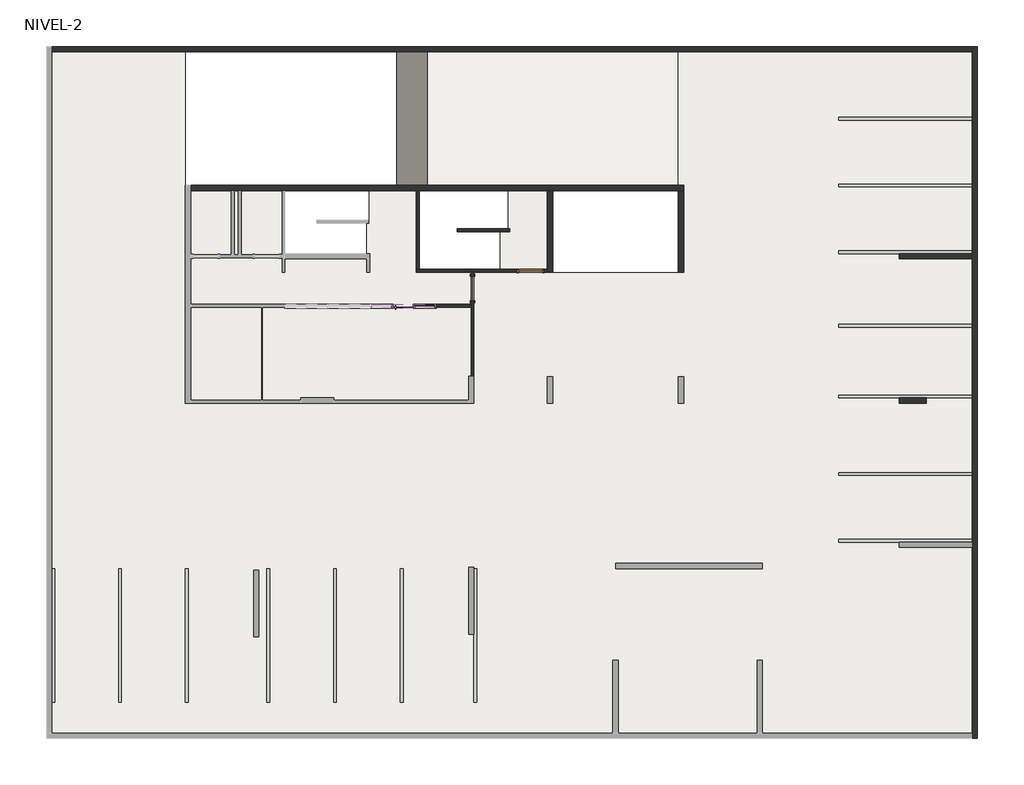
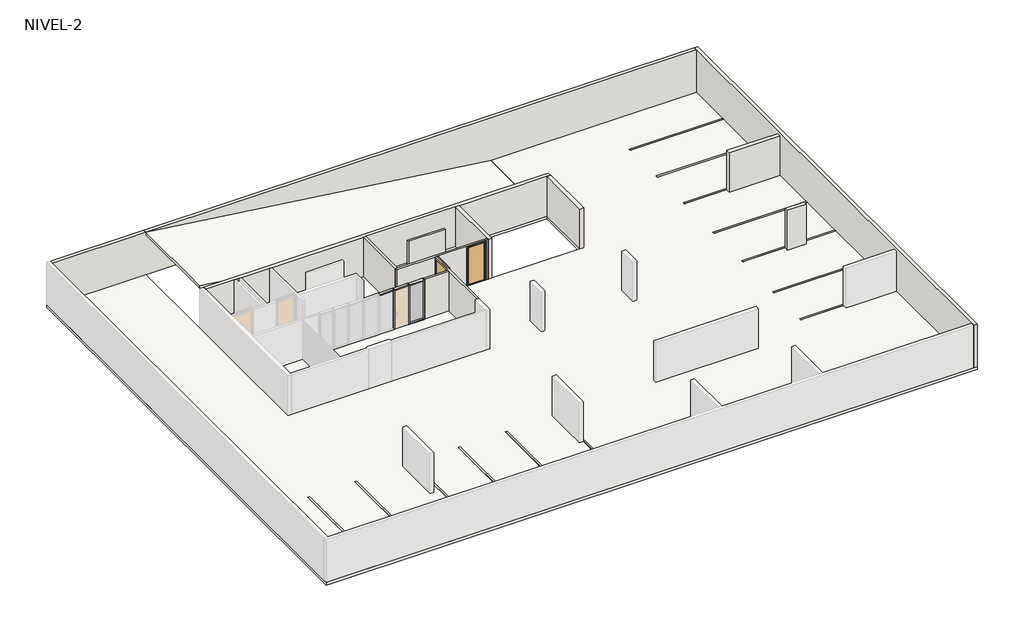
# One storey, part 2 of 2: 14 proxies, 12 walls, 8 members, 2 doors, 2 slabs, 1 plate.
"""IFC4 building model written with IfcOpenShell, lengths in millimetres."""

from ifc_helpers import new_model, si_unit, frame, origin, place, context, project, spatial, polyline, outline, extrude, faceted_brep, transform, mapped, element, save
from components import m_plaza_de_aparcamiento_500x_240_cm_90_grados_ee1d180e, m_plaza_de_aparcamiento_500x_240_cm_90_grados_d35e9f12, door_90f4172a, m_single_flush_910x_224_031eae0d, rectangular_mullion_50_x_150mm_77bbb7d4, rectangular_mullion_50_x_150mm_79b53f25, rectangular_mullion_50_x_150mm_de483d99, system_panel_glazed_bc2b5b42

model = new_model("IFC4")

# Units and contexts
model_context = context("Model", 3, world=origin())
ifc_project = project(units=[si_unit("LENGTHUNIT", "METRE", prefix="MILLI")], contexts=[model_context])

# Site, building, storey
site = spatial("IfcSite", under=ifc_project)
building = spatial("IfcBuilding", under=site)
storey = spatial("IfcBuildingStorey", under=building, Name="NIVEL-2", Elevation=-6900.0)

# Proxies
placement = place(None, origin())
m_plaza_de_aparcamiento_500x_240_cm_90_grados_shape = m_plaza_de_aparcamiento_500x_240_cm_90_grados_ee1d180e(model_context)
element("IfcBuildingElementProxy", 1, Name="M_Plaza de aparcamiento : 500x 240 cm - 90 grados", ObjectType="M_Plaza de aparcamiento : 500x 240 cm - 90 grados", at=placement, inside=storey, context=model_context, shape_type="MappedRepresentation", body=[
    mapped(m_plaza_de_aparcamiento_500x_240_cm_90_grados_shape, transform((-12432.7934748, -1166.0860759, -6900.0), x_axis=(1.0, 0.0, 0.0), y_axis=(0.0, 1.0, 0.0), z_axis=(0.0, 0.0, 1.0))),
])
element("IfcBuildingElementProxy", 2, Name="M_Plaza de aparcamiento : 500x 240 cm - 90 grados", ObjectType="M_Plaza de aparcamiento : 500x 240 cm - 90 grados", at=placement, inside=storey, context=model_context, shape_type="MappedRepresentation", body=[
    mapped(m_plaza_de_aparcamiento_500x_240_cm_90_grados_shape, transform((-15183.5934748, -1166.0860759, -6900.0), x_axis=(1.0, 0.0, 0.0), y_axis=(0.0, 1.0, 0.0), z_axis=(0.0, 0.0, 1.0))),
])
element("IfcBuildingElementProxy", 3, Name="M_Plaza de aparcamiento : 500x 240 cm - 90 grados", ObjectType="M_Plaza de aparcamiento : 500x 240 cm - 90 grados", at=placement, inside=storey, context=model_context, shape_type="MappedRepresentation", body=[
    mapped(m_plaza_de_aparcamiento_500x_240_cm_90_grados_shape, transform((-17683.5934748, -1166.0860759, -6900.0), x_axis=(1.0, 0.0, 0.0), y_axis=(0.0, 1.0, 0.0), z_axis=(0.0, 0.0, 1.0))),
])
element("IfcBuildingElementProxy", 4, Name="M_Plaza de aparcamiento : 500x 240 cm - 90 grados", ObjectType="M_Plaza de aparcamiento : 500x 240 cm - 90 grados", at=placement, inside=storey, context=model_context, shape_type="MappedRepresentation", body=[
    mapped(m_plaza_de_aparcamiento_500x_240_cm_90_grados_shape, transform((-20183.5934748, -1166.0860759, -6900.0), x_axis=(1.0, 0.0, 0.0), y_axis=(0.0, 1.0, 0.0), z_axis=(0.0, 0.0, 1.0))),
])
element("IfcBuildingElementProxy", 5, Name="M_Plaza de aparcamiento : 500x 240 cm - 90 grados", ObjectType="M_Plaza de aparcamiento : 500x 240 cm - 90 grados", at=placement, inside=storey, context=model_context, shape_type="MappedRepresentation", body=[
    mapped(m_plaza_de_aparcamiento_500x_240_cm_90_grados_shape, transform((-23233.5934748, -1166.0860759, -6900.0), x_axis=(1.0, 0.0, 0.0), y_axis=(0.0, 1.0, 0.0), z_axis=(0.0, 0.0, 1.0))),
])
element("IfcBuildingElementProxy", 6, Name="M_Plaza de aparcamiento : 500x 240 cm - 90 grados", ObjectType="M_Plaza de aparcamiento : 500x 240 cm - 90 grados", at=placement, inside=storey, context=model_context, shape_type="MappedRepresentation", body=[
    mapped(m_plaza_de_aparcamiento_500x_240_cm_90_grados_shape, transform((-25733.5934748, -1166.0860759, -6900.0), x_axis=(1.0, 0.0, 0.0), y_axis=(0.0, 1.0, 0.0), z_axis=(0.0, 0.0, 1.0))),
])
element("IfcBuildingElementProxy", 7, Name="M_Plaza de aparcamiento : 500x 240 cm - 90 grados", ObjectType="M_Plaza de aparcamiento : 500x 240 cm - 90 grados", at=placement, inside=storey, context=model_context, shape_type="MappedRepresentation", body=[
    mapped(m_plaza_de_aparcamiento_500x_240_cm_90_grados_shape, transform((-28233.5934748, -1166.0860759, -6900.0), x_axis=(1.0, 0.0, 0.0), y_axis=(0.0, 1.0, 0.0), z_axis=(0.0, 0.0, 1.0))),
])
m_plaza_de_aparcamiento_500x_240_cm_90_grados_2_shape = m_plaza_de_aparcamiento_500x_240_cm_90_grados_d35e9f12(model_context)
element("IfcBuildingElementProxy", 8, Name="M_Plaza de aparcamiento : 500x 240 cm - 90 grados", ObjectType="M_Plaza de aparcamiento : 500x 240 cm - 90 grados", at=placement, inside=storey, context=model_context, shape_type="MappedRepresentation", body=[
    mapped(m_plaza_de_aparcamiento_500x_240_cm_90_grados_2_shape, transform((6166.4065252, 13184.7139241, -6900.0), x_axis=(0.0, 1.0, 0.0), y_axis=(-1.0, 0.0, 0.0), z_axis=(0.0, 0.0, 1.0))),
])
element("IfcBuildingElementProxy", 9, Name="M_Plaza de aparcamiento : 500x 240 cm - 90 grados", ObjectType="M_Plaza de aparcamiento : 500x 240 cm - 90 grados", at=placement, inside=storey, context=model_context, shape_type="MappedRepresentation", body=[
    mapped(m_plaza_de_aparcamiento_500x_240_cm_90_grados_2_shape, transform((6166.4065252, 15684.7139241, -6900.0), x_axis=(0.0, 1.0, 0.0), y_axis=(-1.0, 0.0, 0.0), z_axis=(0.0, 0.0, 1.0))),
])
element("IfcBuildingElementProxy", 10, Name="M_Plaza de aparcamiento : 500x 240 cm - 90 grados", ObjectType="M_Plaza de aparcamiento : 500x 240 cm - 90 grados", at=placement, inside=storey, context=model_context, shape_type="MappedRepresentation", body=[
    mapped(m_plaza_de_aparcamiento_500x_240_cm_90_grados_2_shape, transform((6166.4065252, 10684.7139241, -6900.0), x_axis=(0.0, 1.0, 0.0), y_axis=(-1.0, 0.0, 0.0), z_axis=(0.0, 0.0, 1.0))),
])
element("IfcBuildingElementProxy", 11, Name="M_Plaza de aparcamiento : 500x 240 cm - 90 grados", ObjectType="M_Plaza de aparcamiento : 500x 240 cm - 90 grados", at=placement, inside=storey, context=model_context, shape_type="MappedRepresentation", body=[
    mapped(m_plaza_de_aparcamiento_500x_240_cm_90_grados_2_shape, transform((6166.4065252, 7933.9139241, -6900.0), x_axis=(0.0, 1.0, 0.0), y_axis=(-1.0, 0.0, 0.0), z_axis=(0.0, 0.0, 1.0))),
])
element("IfcBuildingElementProxy", 12, Name="M_Plaza de aparcamiento : 500x 240 cm - 90 grados", ObjectType="M_Plaza de aparcamiento : 500x 240 cm - 90 grados", at=placement, inside=storey, context=model_context, shape_type="MappedRepresentation", body=[
    mapped(m_plaza_de_aparcamiento_500x_240_cm_90_grados_2_shape, transform((6166.4065252, 5284.7139241, -6900.0), x_axis=(0.0, 1.0, 0.0), y_axis=(-1.0, 0.0, 0.0), z_axis=(0.0, 0.0, 1.0))),
])
element("IfcBuildingElementProxy", 13, Name="M_Plaza de aparcamiento : 500x 240 cm - 90 grados", ObjectType="M_Plaza de aparcamiento : 500x 240 cm - 90 grados", at=placement, inside=storey, context=model_context, shape_type="MappedRepresentation", body=[
    mapped(m_plaza_de_aparcamiento_500x_240_cm_90_grados_2_shape, transform((6166.4065252, 2384.7139241, -6900.0), x_axis=(0.0, 1.0, 0.0), y_axis=(-1.0, 0.0, 0.0), z_axis=(0.0, 0.0, 1.0))),
])
element("IfcBuildingElementProxy", 14, Name="M_Plaza de aparcamiento : 500x 240 cm - 90 grados", ObjectType="M_Plaza de aparcamiento : 500x 240 cm - 90 grados", at=placement, inside=storey, context=model_context, shape_type="MappedRepresentation", body=[
    mapped(m_plaza_de_aparcamiento_500x_240_cm_90_grados_2_shape, transform((6166.4065252, -115.2860759, -6900.0), x_axis=(0.0, 1.0, 0.0), y_axis=(-1.0, 0.0, 0.0), z_axis=(0.0, 0.0, 1.0))),
])

# Doors
door_shape = door_90f4172a(model_context)
element("IfcDoor", 15, ObjectType="PUERTA SEGURIDAD SIMPLE : P600_A(90*220) RF120", at=placement, inside=storey, context=model_context, shape_type="MappedRepresentation", body=[
    mapped(door_shape, transform((-10358.5934748, 9988.9139241, -6900.0), x_axis=(1.0, 0.0, 0.0), y_axis=(0.0, 1.0, 0.0), z_axis=(0.0, 0.0, 1.0))),
])
m_single_flush_910x_224_shape = m_single_flush_910x_224_031eae0d(model_context)
element("IfcDoor", 16, ObjectType="M_Single-Flush : 910x 224", at=placement, inside=storey, context=model_context, shape_type="MappedRepresentation", body=[
    mapped(m_single_flush_910x_224_shape, transform((-12538.5934748, 9333.9139241, -6900.0), x_axis=(0.0, -1.0, 0.0), y_axis=(1.0, 0.0, 0.0), z_axis=(0.0, 0.0, 1.0))),
])

# Members
rectangular_mullion_50_x_150mm_shape = rectangular_mullion_50_x_150mm_77bbb7d4(model_context)
element("IfcMember", 17, ObjectType="Rectangular Mullion : 50 x 150mm", at=placement, inside=storey, context=model_context, shape_type="MappedRepresentation", body=[
    mapped(rectangular_mullion_50_x_150mm_shape, transform((-15558.5934745, 8658.9139241, -4670.0), x_axis=(0.0, 0.0, 1.0), y_axis=(0.0, -1.0, 0.0), z_axis=(1.0, 0.0, 0.0))),
])
element("IfcMember", 18, ObjectType="Rectangular Mullion : 50 x 150mm", at=placement, inside=storey, context=model_context, shape_type="MappedRepresentation", body=[
    mapped(rectangular_mullion_50_x_150mm_shape, transform((-14753.5934745, 8658.9139241, -4670.0), x_axis=(0.0, 0.0, 1.0), y_axis=(0.0, -1.0, 0.0), z_axis=(1.0, 0.0, 0.0))),
])
element("IfcMember", 19, ObjectType="Rectangular Mullion : 50 x 150mm", at=placement, inside=storey, context=model_context, shape_type="MappedRepresentation", body=[
    mapped(rectangular_mullion_50_x_150mm_shape, transform((-13948.5934745, 8658.9139241, -4670.0), x_axis=(0.0, 0.0, 1.0), y_axis=(0.0, -1.0, 0.0), z_axis=(1.0, 0.0, 0.0))),
])
element("IfcMember", 20, ObjectType="Rectangular Mullion : 50 x 150mm", at=placement, inside=storey, context=model_context, shape_type="MappedRepresentation", body=[
    mapped(rectangular_mullion_50_x_150mm_shape, transform((-14703.5934745, 8658.9139241, -6920.0), x_axis=(0.0, 0.0, -1.0), y_axis=(0.0, -1.0, 0.0), z_axis=(-1.0, 0.0, 0.0))),
])
rectangular_mullion_50_x_150mm_2_shape = rectangular_mullion_50_x_150mm_79b53f25(model_context)
element("IfcMember", 21, ObjectType="Rectangular Mullion : 50 x 150mm", at=placement, inside=storey, context=model_context, shape_type="MappedRepresentation", body=[
    mapped(rectangular_mullion_50_x_150mm_2_shape, transform((-15533.5934745, 8658.9139241, -6920.0), x_axis=(1.0, 0.0, 0.0), y_axis=(0.0, -1.0, 0.0), z_axis=(0.0, 0.0, -1.0))),
])
element("IfcMember", 22, ObjectType="Rectangular Mullion : 50 x 150mm", at=placement, inside=storey, context=model_context, shape_type="MappedRepresentation", body=[
    mapped(rectangular_mullion_50_x_150mm_2_shape, transform((-14728.5934745, 8658.9139241, -6920.0), x_axis=(1.0, 0.0, 0.0), y_axis=(0.0, -1.0, 0.0), z_axis=(0.0, 0.0, -1.0))),
])
element("IfcMember", 23, ObjectType="Rectangular Mullion : 50 x 150mm", at=placement, inside=storey, context=model_context, shape_type="MappedRepresentation", body=[
    mapped(rectangular_mullion_50_x_150mm_2_shape, transform((-13923.5934745, 8658.9139241, -6920.0), x_axis=(1.0, 0.0, 0.0), y_axis=(0.0, -1.0, 0.0), z_axis=(0.0, 0.0, -1.0))),
])
rectangular_mullion_50_x_150mm_3_shape = rectangular_mullion_50_x_150mm_de483d99(model_context)
element("IfcMember", 24, ObjectType="Rectangular Mullion : 50 x 150mm", at=placement, inside=storey, context=model_context, shape_type="MappedRepresentation", body=[
    mapped(rectangular_mullion_50_x_150mm_3_shape, transform((-13898.5934748, 8658.9139241, -6920.0), x_axis=(1.0, 0.0, 0.0), y_axis=(0.0, -1.0, 0.0), z_axis=(0.0, 0.0, -1.0))),
])

# Plate
system_panel_glazed_shape = system_panel_glazed_bc2b5b42(model_context)
element("IfcPlate", 25, ObjectType="System Panel : Glazed", at=placement, inside=storey, context=model_context, shape_type="MappedRepresentation", body=[
    mapped(system_panel_glazed_shape, transform((-14326.0934745, 8658.9139241, -6870.0), x_axis=(1.0, 0.0, 0.0), y_axis=(0.0, 1.0, 0.0), z_axis=(0.0, 0.0, 1.0))),
])

# Slabs
element("IfcSlab", 26, ObjectType="LOSA-150mm", at=placement, inside=storey, context=model_context, shape_type="Brep", body=[
    faceted_brep([(6366.4065252, 18384.7139241, -7070.0), (6366.4065252, -7516.0860759, -7070.0), (-28484.3934748, -7516.0860759, -7070.0), (-28484.3934748, 18384.7139241, -7070.0), (-23284.3934748, 18384.7139241, -7070.0), (-23284.3934748, 13184.7139241, -7070.0), (-4833.5934748, 13184.7139241, -7070.0), (-4833.5934748, 18384.7139241, -7070.0), (-19558.5934748, 12984.7139241, -7070.0), (-19558.5934748, 10633.9139241, -7070.0), (-16515.8934748, 10633.9139241, -7070.0), (-16515.8934748, 11766.6139241, -7070.0), (-16415.8934748, 11766.6139241, -7070.0), (-16415.8934748, 12984.7139241, -7070.0), (-11223.9934748, 12984.7139241, -7070.0), (-14524.3934748, 12984.7139241, -7070.0), (-14524.3934748, 10043.9139241, -7070.0), (-11524.4934748, 10043.9139241, -7070.0), (-11524.4934748, 11459.3139241, -7070.0), (-11223.9934748, 11459.3139241, -7070.0), (-4833.5934748, 12984.7139241, -7070.0), (-9533.5934748, 12984.7139241, -7070.0), (-9533.5934748, 9933.9139241, -7070.0), (-4833.5934748, 9933.9139241, -7070.0), (6366.4065252, -7516.0860759, -6920.0), (6366.4065252, 18384.7139241, -6920.0), (6166.4065252, 18384.7139241, -6920.0), (-4833.5934748, 18384.7139241, -6920.0), (-4833.5934748, 13184.7139241, -6920.0), (-23284.3934748, 13184.7139241, -6920.0), (-23284.3934748, 18384.7139241, -6920.0), (-28484.3934748, 18384.7139241, -6920.0), (-28484.3934748, -7516.0860759, -6920.0), (6166.4065252, -7516.0860759, -6920.0), (-19558.5934748, 10633.9139241, -6920.0), (-19558.5934748, 12984.7139241, -6920.0), (-16415.8934748, 12984.7139241, -6920.0), (-16415.8934748, 11766.6139241, -6920.0), (-16515.8934748, 11766.6139241, -6920.0), (-16515.8934748, 10633.9139241, -6920.0), (-14524.3934748, 12984.7139241, -6920.0), (-11223.9934748, 12984.7139241, -6920.0), (-11223.9934748, 11459.3139241, -6920.0), (-11524.4934748, 11459.3139241, -6920.0), (-11524.4934748, 10043.9139241, -6920.0), (-14524.3934748, 10043.9139241, -6920.0), (-9533.5934748, 12984.7139241, -6920.0), (-4833.5934748, 12984.7139241, -6920.0), (-4833.5934748, 9933.9139241, -6920.0), (-9533.5934748, 9933.9139241, -6920.0)], [[[0, 1, 2, 3, 4, 5, 6, 7], [8, 9, 10, 11, 12, 13], [14, 15, 16, 17, 18, 19], [20, 21, 22, 23]], [[24, 25, 26, 27, 28, 29, 30, 31, 32, 33], [34, 35, 36, 37, 38, 39], [40, 41, 42, 43, 44, 45], [46, 47, 48, 49]], [[1, 0, 25, 24]], [[2, 1, 24, 33, 32]], [[3, 2, 32, 31]], [[4, 3, 31, 30]], [[5, 4, 30, 29]], [[6, 5, 29, 28]], [[7, 6, 28, 27]], [[0, 7, 27, 26, 25]], [[9, 8, 35, 34]], [[10, 9, 34, 39]], [[12, 11, 38, 37]], [[13, 12, 37, 36]], [[8, 13, 36, 35]], [[15, 14, 41, 40]], [[16, 15, 40, 45]], [[17, 16, 45, 44]], [[18, 17, 44, 43]], [[19, 18, 43, 42]], [[14, 19, 42, 41]], [[11, 10, 39, 38]], [[20, 47, 46, 21]], [[21, 46, 49, 22]], [[22, 49, 48, 23]], [[47, 20, 23, 48]]]),
])
element("IfcSlab", 27, ObjectType="LOSA-150mm", at=placement, inside=storey, context=model_context, shape_type="SweptSolid", body=[
    extrude(outline(polyline([(-4671.2636531, -23284.3934748), (-7071.2636531, -4833.5934748), (-6920.0, -4833.5934748), (-4520.0, -23284.3934748), (-4671.2636531, -23284.3934748)])), frame((0.0, 13184.7139241, 0.0), z_axis=(0.0, 1.0, 0.0), x_axis=(0.0, 0.0, 1.0)), (0.0, 0.0, 1.0), 5200.0),
])

# Walls
element("IfcWall", 28, ObjectType="SCV.TI.A.110.090.143.47.1", at=placement, inside=storey, context=model_context, shape_type="Brep", body=[
    faceted_brep([(-12483.5934748, 6033.9139241, -6920.0), (-12483.5934748, 9933.9139241, -6920.0), (-12483.5934748, 9933.9139241, -4670.0), (-12483.5934748, 6033.9139241, -4670.0), (-12483.5934748, 9791.4139241, -6900.0), (-12483.5934748, 8876.4139241, -6900.0), (-12483.5934748, 8876.4139241, -4700.0), (-12483.5934748, 9791.4139241, -4700.0), (-12593.5934748, 6033.9139241, -6920.0), (-12593.5934748, 6033.9139241, -4670.0), (-12593.5934748, 8623.9139241, -4670.0), (-12593.5934748, 8733.9139241, -4670.0), (-12593.5934748, 9933.9139241, -4670.0), (-12593.5934748, 9933.9139241, -6920.0), (-12593.5934748, 8733.9139241, -6920.0), (-12593.5934748, 8623.9139241, -6920.0), (-12593.5934748, 9791.4139241, -6900.0), (-12593.5934748, 9791.4139241, -4700.0), (-12593.5934748, 8876.4139241, -4700.0), (-12593.5934748, 8876.4139241, -6900.0)], [[[0, 1, 2, 3], [4, 5, 6, 7]], [[8, 9, 10, 11, 12, 13, 14, 15], [16, 17, 18, 19]], [[1, 0, 8, 15, 14, 13]], [[3, 2, 12, 11, 10, 9]], [[0, 3, 9, 8]], [[2, 1, 13, 12]], [[5, 4, 16, 19]], [[6, 5, 19, 18]], [[7, 6, 18, 17]], [[4, 7, 17, 16]]]),
])
element("IfcWall", 29, ObjectType="SCV.TI.A.110.120.141.44.1", at=placement, inside=storey, context=model_context, shape_type="SweptSolid", body=[
    extrude(outline(polyline([(-14634.3934748, 10043.9139241), (-14634.3934748, 12984.7139241), (-14524.3934748, 12984.7139241), (-14524.3934748, 10043.9139241), (-14634.3934748, 10043.9139241)])), frame((0.0, 0.0, -6920.0), z_axis=(0.0, 0.0, 1.0), x_axis=(1.0, 0.0, 0.0)), (0.0, 0.0, 1.0), 2250.0),
])
element("IfcWall", 30, ObjectType="SCV.TI.A.110.120.141.44.1", at=placement, inside=storey, context=model_context, shape_type="Brep", body=[
    faceted_brep([(-9733.5934748, 10043.9139241, -6920.0), (-14524.3934748, 10043.9139241, -6920.0), (-14634.3934748, 10043.9139241, -6920.0), (-14634.3934748, 10043.9139241, -4670.0), (-14524.3934748, 10043.9139241, -4670.0), (-9733.5934748, 10043.9139241, -4670.0), (-9843.5934748, 10043.9139241, -6900.0), (-9843.5934748, 10043.9139241, -4700.0), (-10873.5934748, 10043.9139241, -4700.0), (-10873.5934748, 10043.9139241, -6900.0), (-9733.5934748, 9933.9139241, -6920.0), (-9733.5934748, 9933.9139241, -4670.0), (-12483.5934748, 9933.9139241, -4670.0), (-12593.5934748, 9933.9139241, -4670.0), (-14634.3934748, 9933.9139241, -4670.0), (-14634.3934748, 9933.9139241, -6920.0), (-12593.5934748, 9933.9139241, -6920.0), (-12483.5934748, 9933.9139241, -6920.0), (-9843.5934748, 9933.9139241, -6900.0), (-10873.5934748, 9933.9139241, -6900.0), (-10873.5934748, 9933.9139241, -4700.0), (-9843.5934748, 9933.9139241, -4700.0)], [[[0, 1, 2, 3, 4, 5], [6, 7, 8, 9]], [[10, 11, 12, 13, 14, 15, 16, 17], [18, 19, 20, 21]], [[2, 1, 0, 10, 17, 16, 15]], [[5, 4, 3, 14, 13, 12, 11]], [[0, 5, 11, 10]], [[3, 2, 15, 14]], [[7, 6, 18, 21]], [[8, 7, 21, 20]], [[9, 8, 20, 19]], [[6, 9, 19, 18]]]),
])
element("IfcWall", 31, ObjectType="SCV.TI.A.110.090.143.47.1", at=placement, inside=storey, context=model_context, shape_type="SweptSolid", body=[
    extrude(outline(polyline([(-12593.5934748, 8623.9139241), (-13898.5934748, 8623.9139241), (-13898.5934748, 8733.9139241), (-12593.5934748, 8733.9139241), (-12593.5934748, 8623.9139241)])), frame((0.0, 0.0, -6920.0), z_axis=(0.0, 0.0, 1.0), x_axis=(1.0, 0.0, 0.0)), (0.0, 0.0, 1.0), 2250.0),
])
element("IfcWall", 32, ObjectType="SCV.TI.A.110.090.143.47.1", at=placement, inside=storey, context=model_context, shape_type="SweptSolid", body=[
    extrude(outline(polyline([(-11148.9934748, 11459.3139241), (-13108.9934748, 11459.3139241), (-13108.9934748, 11569.3139241), (-11148.9934748, 11569.3139241), (-11148.9934748, 11459.3139241)])), frame((0.0, 0.0, -6920.0), z_axis=(0.0, 0.0, 1.0), x_axis=(1.0, 0.0, 0.0)), (0.0, 0.0, 1.0), 2400.0),
])
element("IfcWall", 33, ObjectType="HA-200mm", at=placement, inside=storey, context=model_context, shape_type="Brep", body=[
    faceted_brep([(-23084.3934748, 12984.7139241, -6920.0), (-21561.4934748, 12984.7139241, -6920.0), (-21451.4934748, 12984.7139241, -6920.0), (-21301.4934748, 12984.7139241, -6920.0), (-21191.4934748, 12984.7139241, -6920.0), (-19668.5934748, 12984.7139241, -6920.0), (-19558.5934748, 12984.7139241, -6920.0), (-14634.3934748, 12984.7139241, -6920.0), (-14524.3934748, 12984.7139241, -6920.0), (-9733.5934748, 12984.7139241, -6920.0), (-9533.5934748, 12984.7139241, -6920.0), (-4833.5934748, 12984.7139241, -6920.0), (-4633.5934748, 12984.7139241, -6920.0), (-4633.5934748, 12984.7139241, -4670.0), (-4833.5934748, 12984.7139241, -4670.0), (-9533.5934748, 12984.7139241, -4670.0), (-9733.5934748, 12984.7139241, -4670.0), (-11223.9934748, 12984.7139241, -4670.0), (-14524.3934748, 12984.7139241, -4670.0), (-14634.3934748, 12984.7139241, -4670.0), (-19558.5934748, 12984.7139241, -4670.0), (-19668.5934748, 12984.7139241, -4670.0), (-21191.4934748, 12984.7139241, -4670.0), (-21301.4934748, 12984.7139241, -4670.0), (-21451.4934748, 12984.7139241, -4670.0), (-21561.4934748, 12984.7139241, -4670.0), (-23084.3934748, 12984.7139241, -4670.0), (-23084.3934748, 13184.7139241, -6920.0), (-23084.3934748, 13184.7139241, -4670.0), (-4833.5934748, 13184.7139241, -4670.0), (-4633.5934748, 13184.7139241, -4670.0), (-4633.5934748, 13184.7139241, -6920.0)], [[[0, 1, 2, 3, 4, 5, 6, 7, 8, 9, 10, 11, 12, 13, 14, 15, 16, 17, 18, 19, 20, 21, 22, 23, 24, 25, 26]], [[27, 28, 29, 30, 31]], [[12, 11, 10, 9, 8, 7, 6, 5, 4, 3, 2, 1, 0, 27, 31]], [[0, 26, 28, 27]], [[13, 12, 31, 30]], [[26, 25, 24, 23, 22, 21, 20, 19, 18, 17, 16, 15, 14, 13, 30, 29, 28]]]),
])
element("IfcWall", 34, ObjectType="HA-200mm", at=placement, inside=storey, context=model_context, shape_type="SweptSolid", body=[
    extrude(outline(polyline([(-4833.5934748, 9933.9139241), (-4833.5934748, 12984.7139241), (-4633.5934748, 12984.7139241), (-4633.5934748, 9933.9139241), (-4833.5934748, 9933.9139241)])), frame((0.0, 0.0, -6920.0), z_axis=(0.0, 0.0, 1.0), x_axis=(1.0, 0.0, 0.0)), (0.0, 0.0, 1.0), 2250.0),
])
element("IfcWall", 35, ObjectType="HA-200mm", at=placement, inside=storey, context=model_context, shape_type="Brep", body=[
    faceted_brep([(6166.4065252, 18384.7139241, -6920.0), (6166.4065252, 18184.7139241, -6920.0), (6166.4065252, 10633.9139241, -6920.0), (6166.4065252, 10433.9139241, -6920.0), (6166.4065252, -166.0860759, -6920.0), (6166.4065252, -366.0860759, -6920.0), (6166.4065252, -7316.0860759, -6920.0), (6166.4065252, -7516.0860759, -6920.0), (6166.4065252, -7516.0860759, -4520.0), (6166.4065252, -7316.0860759, -4520.0), (6166.4065252, 18184.7139241, -4520.0), (6166.4065252, 18384.7139241, -4520.0), (6366.4065252, 18384.7139241, -6920.0), (6366.4065252, 18384.7139241, -4520.0), (6366.4065252, -7516.0860759, -4520.0), (6366.4065252, -7516.0860759, -6920.0)], [[[0, 1, 2, 3, 4, 5, 6, 7, 8, 9, 10, 11]], [[12, 13, 14, 15]], [[7, 6, 5, 4, 3, 2, 1, 0, 12, 15]], [[11, 10, 9, 8, 14, 13]], [[8, 7, 15, 14]], [[0, 11, 13, 12]]]),
])
element("IfcWall", 36, ObjectType="HA-200mm", at=placement, inside=storey, context=model_context, shape_type="Brep", body=[
    faceted_brep([(-9533.5934748, 9933.9139241, -6920.0), (-9533.5934748, 12984.7139241, -6920.0), (-9533.5934748, 12984.7139241, -4670.0), (-9533.5934748, 9933.9139241, -4670.0), (-9733.5934748, 9933.9139241, -6920.0), (-9733.5934748, 9933.9139241, -4670.0), (-9733.5934748, 10043.9139241, -4670.0), (-9733.5934748, 12984.7139241, -4670.0), (-9733.5934748, 12984.7139241, -6920.0), (-9733.5934748, 10043.9139241, -6920.0)], [[[0, 1, 2, 3]], [[4, 5, 6, 7, 8, 9]], [[1, 0, 4, 9, 8]], [[3, 2, 7, 6, 5]], [[2, 1, 8, 7]], [[0, 3, 5, 4]]]),
])
element("IfcWall", 37, ObjectType="HA-200mm", at=placement, inside=storey, context=model_context, shape_type="SweptSolid", body=[
    extrude(outline(polyline([(6166.4065252, 18184.7139241), (-28284.3934748, 18184.7139241), (-28284.3934748, 18384.7139241), (6166.4065252, 18384.7139241), (6166.4065252, 18184.7139241)])), frame((0.0, 0.0, -6920.0), z_axis=(0.0, 0.0, 1.0), x_axis=(1.0, 0.0, 0.0)), (0.0, 0.0, 1.0), 2400.0),
])
element("IfcWall", 38, ObjectType="HA-200mm", at=placement, inside=storey, context=model_context, shape_type="SweptSolid", body=[
    extrude(outline(polyline([(4441.4065252, 5033.9139241), (3441.4065252, 5033.9139241), (3441.4065252, 5233.9139241), (4441.4065252, 5233.9139241), (4441.4065252, 5033.9139241)])), frame((0.0, 0.0, -6920.0), z_axis=(0.0, 0.0, 1.0), x_axis=(1.0, 0.0, 0.0)), (0.0, 0.0, 1.0), 2250.0),
])
element("IfcWall", 39, ObjectType="HA-200mm", at=placement, inside=storey, context=model_context, shape_type="SweptSolid", body=[
    extrude(outline(polyline([(6166.4065252, 10433.9139241), (3441.4065252, 10433.9139241), (3441.4065252, 10633.9139241), (6166.4065252, 10633.9139241), (6166.4065252, 10433.9139241)])), frame((0.0, 0.0, -6920.0), z_axis=(0.0, 0.0, 1.0), x_axis=(1.0, 0.0, 0.0)), (0.0, 0.0, 1.0), 2250.0),
])

save(model, "model.ifc")
